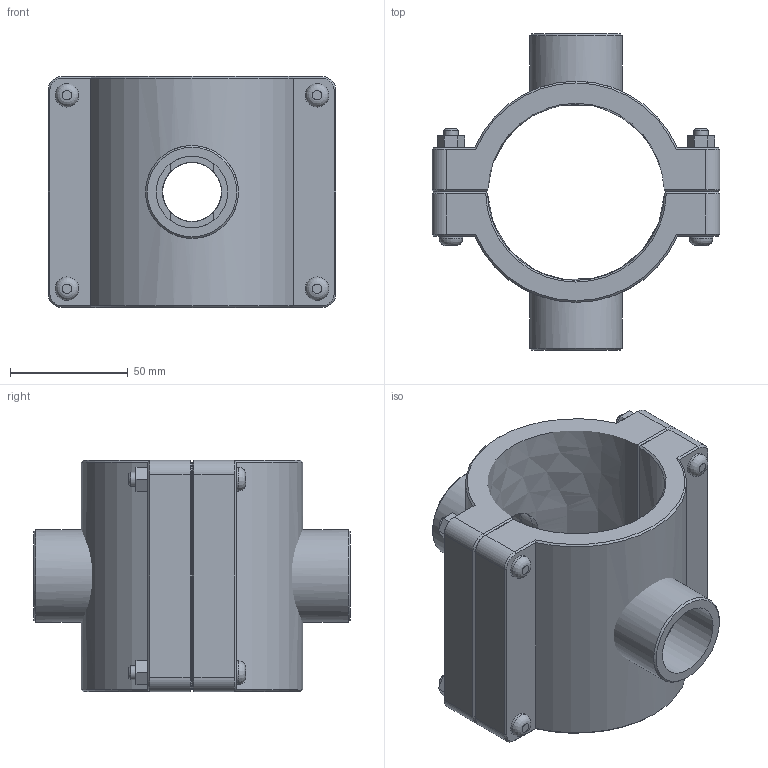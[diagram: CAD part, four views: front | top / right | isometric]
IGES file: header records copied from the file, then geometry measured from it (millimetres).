
Global section: file name: 161760075010_161860075010.ipt; native system: Autodesk Inventor 2015; preprocessor: unknown; author: KIM; date: 20170618.093715; units: millimetre
Bounding box: 122 x 134 x 98 mm (x, y, z)
Volume: 379532.9 mm3; surface area: 88916.5 mm2
Topology: 3 solids, 3 shells, 159 faces, 373 edges, 236 vertices
Faces by surface type: plane 88, cone 26, cylinder 24, revolution 21
Full cylindrical faces by diameter (mm): 6 x4, 10 x8, 39.378 x2
